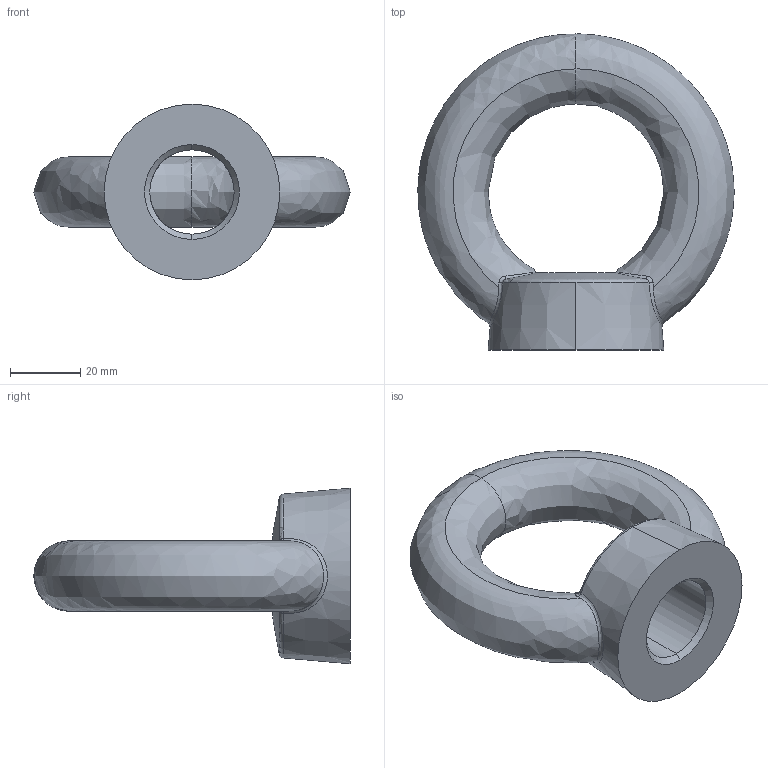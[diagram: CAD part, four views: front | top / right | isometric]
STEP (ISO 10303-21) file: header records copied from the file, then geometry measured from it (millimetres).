
FILE_DESCRIPTION (( 'STEP AP203' ), '1' );
FILE_NAME ('P4041.240-020-ZP.step', '2023-04-16T08:03:51', ( '' ), ( '' ), 'SwSTEP 2.0', 'SolidWorks 2019', '' );
FILE_SCHEMA (( 'CONFIG_CONTROL_DESIGN' ));
Length unit declared in the file: millimetre
Products named in the file (1): P4041.240-020-ZP
Bounding box: 89.99 x 89.99 x 50 mm (x, y, z)
Volume: 83518.4 mm3; surface area: 17830.2 mm2
Topology: 1 solids, 1 shells, 27 faces, 69 edges, 41 vertices
Faces by surface type: bspline 14, cone 7, torus 3, cylinder 2, plane 1
Entity records: 3244 total; most frequent: CARTESIAN_POINT 2618, ORIENTED_EDGE 138, DIRECTION 87, EDGE_CURVE 69, VERTEX_POINT 41, AXIS2_PLACEMENT_3D 40, B_SPLINE_CURVE_WITH_KNOTS 34, EDGE_LOOP 28
